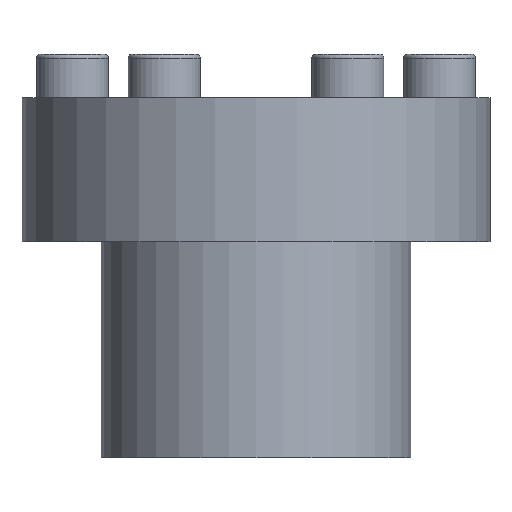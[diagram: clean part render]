
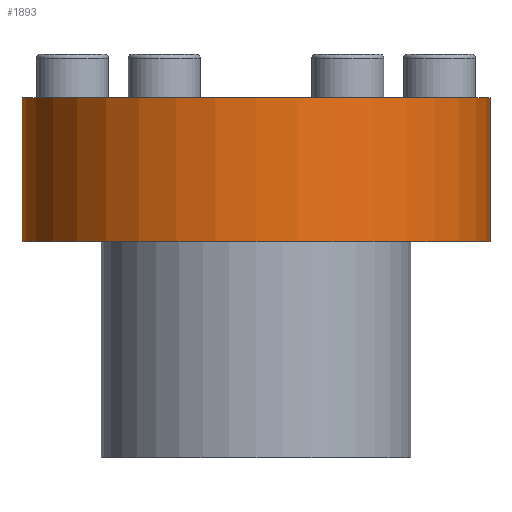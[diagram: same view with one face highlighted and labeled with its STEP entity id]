
A CAD part, front view. The second image highlights one B-rep face of the part: STEP entity #1893.
In plain terms, the highlighted cylindrical face has radius 32.5 mm (diameter 65 mm), a partial arc.
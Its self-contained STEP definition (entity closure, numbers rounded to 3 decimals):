
#19 = DIRECTION ( 'NONE',  ( 0., 0., 1. ) ) ;
#74 = CARTESIAN_POINT ( 'NONE',  ( 32.5, 0., -20. ) ) ;
#97 = DIRECTION ( 'NONE',  ( 0., 0., 1. ) ) ;
#269 = ORIENTED_EDGE ( 'NONE', *, *, #1025, .F. ) ;
#380 = AXIS2_PLACEMENT_3D ( 'NONE', #2299, #2319, #1977 ) ;
#409 = DIRECTION ( 'NONE',  ( 0., 0., 1. ) ) ;
#510 = CARTESIAN_POINT ( 'NONE',  ( 32.5, 0., 0. ) ) ;
#533 = DIRECTION ( 'NONE',  ( 0., 0., 1. ) ) ;
#555 = EDGE_LOOP ( 'NONE', ( #1426, #699, #1990, #269 ) ) ;
#580 = LINE ( 'NONE', #1985, #1388 ) ;
#699 = ORIENTED_EDGE ( 'NONE', *, *, #2356, .T. ) ;
#747 = CARTESIAN_POINT ( 'NONE',  ( 0., 0., 0. ) ) ;
#758 = CARTESIAN_POINT ( 'NONE',  ( -32.5, 0., -20. ) ) ;
#951 = CARTESIAN_POINT ( 'NONE',  ( -32.5, 0., 0. ) ) ;
#953 = DIRECTION ( 'NONE',  ( 1., 0., 0. ) ) ;
#1025 = EDGE_CURVE ( 'NONE', #1711, #1966, #1352, .T. ) ;
#1182 = CARTESIAN_POINT ( 'NONE',  ( 0., 0., 0. ) ) ;
#1323 = FACE_OUTER_BOUND ( 'NONE', #555, .T. ) ;
#1352 = CIRCLE ( 'NONE', #1486, 32.5 ) ;
#1388 = VECTOR ( 'NONE', #533, 1000. ) ;
#1402 = EDGE_CURVE ( 'NONE', #2300, #1711, #580, .T. ) ;
#1426 = ORIENTED_EDGE ( 'NONE', *, *, #1402, .F. ) ;
#1466 = CIRCLE ( 'NONE', #380, 32.5 ) ;
#1486 = AXIS2_PLACEMENT_3D ( 'NONE', #747, #19, #953 ) ;
#1511 = AXIS2_PLACEMENT_3D ( 'NONE', #1182, #97, #1544 ) ;
#1522 = CARTESIAN_POINT ( 'NONE',  ( 32.5, 0., 0. ) ) ;
#1544 = DIRECTION ( 'NONE',  ( 1., 0., 0. ) ) ;
#1626 = LINE ( 'NONE', #1522, #2189 ) ;
#1708 = EDGE_CURVE ( 'NONE', #1824, #1966, #1626, .T. ) ;
#1711 = VERTEX_POINT ( 'NONE', #951 ) ;
#1824 = VERTEX_POINT ( 'NONE', #74 ) ;
#1876 = CYLINDRICAL_SURFACE ( 'NONE', #1511, 32.5 ) ;
#1893 = ADVANCED_FACE ( 'NONE', ( #1323 ), #1876, .T. ) ;
#1966 = VERTEX_POINT ( 'NONE', #510 ) ;
#1977 = DIRECTION ( 'NONE',  ( 1., 0., 0. ) ) ;
#1985 = CARTESIAN_POINT ( 'NONE',  ( -32.5, 0., 0. ) ) ;
#1990 = ORIENTED_EDGE ( 'NONE', *, *, #1708, .T. ) ;
#2189 = VECTOR ( 'NONE', #409, 1000. ) ;
#2299 = CARTESIAN_POINT ( 'NONE',  ( 0., 0., -20. ) ) ;
#2300 = VERTEX_POINT ( 'NONE', #758 ) ;
#2319 = DIRECTION ( 'NONE',  ( 0., 0., 1. ) ) ;
#2356 = EDGE_CURVE ( 'NONE', #2300, #1824, #1466, .T. ) ;
